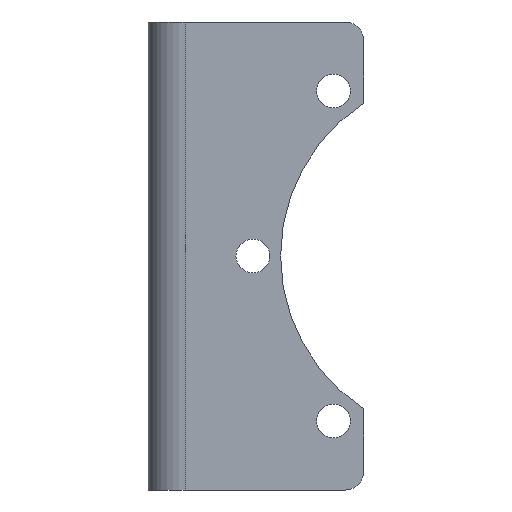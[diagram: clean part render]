
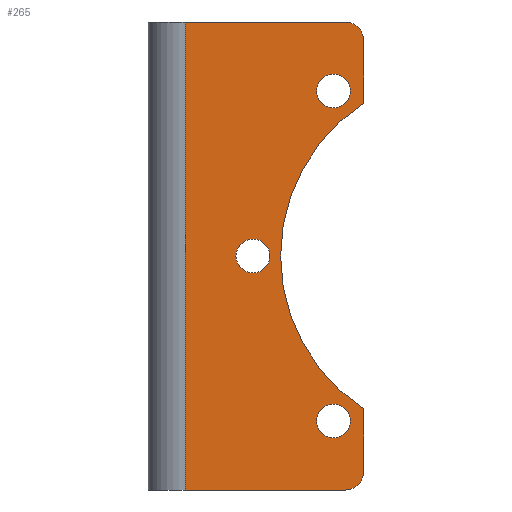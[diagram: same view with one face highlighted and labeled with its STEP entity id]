
A CAD part, front view. The second image highlights one B-rep face of the part: STEP entity #265.
In plain terms, the highlighted planar face has unit normal (0, -1, 0).
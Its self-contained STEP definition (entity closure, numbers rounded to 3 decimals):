
#84=CARTESIAN_POINT('',(35.0,0.,-35.0));
#85=VERTEX_POINT('',#84);
#92=CARTESIAN_POINT('',(32.0,0.,-38.0));
#93=VERTEX_POINT('',#92);
#94=CARTESIAN_POINT('',(32.0,0.,-35.0));
#95=DIRECTION('',(0.0,1.0,0.0));
#96=DIRECTION('',(0.707,0.0,-0.707));
#97=AXIS2_PLACEMENT_3D('',#94,#95,#96);
#98=CIRCLE('',#97,3.0);
#99=EDGE_CURVE('',#85,#93,#98,.T.);
#116=CARTESIAN_POINT('',(6.,0.,-38.0));
#117=VERTEX_POINT('',#116);
#118=CARTESIAN_POINT('',(6.,0.,-38.0));
#119=DIRECTION('',(1.0,0.0,0.0));
#120=VECTOR('',#119,26.0);
#121=LINE('',#118,#120);
#122=EDGE_CURVE('',#117,#93,#121,.T.);
#175=CARTESIAN_POINT('',(35.0,0.,0.0));
#176=DIRECTION('',(0.0,-1.0,0.0));
#177=DIRECTION('',(0.0,0.0,-1.0));
#178=AXIS2_PLACEMENT_3D('',#175,#176,#177);
#179=PLANE('',#178);
#180=ORIENTED_EDGE('',*,*,#99,.F.);
#181=CARTESIAN_POINT('',(35.0,0.0,-24.784));
#182=VERTEX_POINT('',#181);
#183=CARTESIAN_POINT('',(35.0,0.,-35.0));
#184=DIRECTION('',(0.0,0.0,1.0));
#185=VECTOR('',#184,10.216);
#186=LINE('',#183,#185);
#187=EDGE_CURVE('',#85,#182,#186,.T.);
#188=ORIENTED_EDGE('',*,*,#187,.T.);
#189=CARTESIAN_POINT('',(35.0,0.0,24.784));
#190=VERTEX_POINT('',#189);
#191=CARTESIAN_POINT('',(51.,0.,0.0));
#192=DIRECTION('',(0.0,1.0,0.0));
#193=DIRECTION('',(1.0,0.0,0.0));
#194=AXIS2_PLACEMENT_3D('',#191,#192,#193);
#195=CIRCLE('',#194,29.5);
#196=EDGE_CURVE('',#182,#190,#195,.T.);
#197=ORIENTED_EDGE('',*,*,#196,.T.);
#198=CARTESIAN_POINT('',(35.0,0.,35.0));
#199=VERTEX_POINT('',#198);
#200=CARTESIAN_POINT('',(35.0,0.,24.784));
#201=DIRECTION('',(0.0,0.0,1.0));
#202=VECTOR('',#201,10.216);
#203=LINE('',#200,#202);
#204=EDGE_CURVE('',#190,#199,#203,.T.);
#205=ORIENTED_EDGE('',*,*,#204,.T.);
#206=CARTESIAN_POINT('',(32.0,0.,38.0));
#207=VERTEX_POINT('',#206);
#208=CARTESIAN_POINT('',(32.0,0.,35.0));
#209=DIRECTION('',(0.0,1.0,0.0));
#210=DIRECTION('',(0.707,0.0,0.707));
#211=AXIS2_PLACEMENT_3D('',#208,#209,#210);
#212=CIRCLE('',#211,3.0);
#213=EDGE_CURVE('',#207,#199,#212,.T.);
#214=ORIENTED_EDGE('',*,*,#213,.F.);
#215=CARTESIAN_POINT('',(6.,0.,38.0));
#216=VERTEX_POINT('',#215);
#217=CARTESIAN_POINT('',(32.0,0.,38.0));
#218=DIRECTION('',(-1.0,0.0,0.0));
#219=VECTOR('',#218,26.0);
#220=LINE('',#217,#219);
#221=EDGE_CURVE('',#207,#216,#220,.T.);
#222=ORIENTED_EDGE('',*,*,#221,.T.);
#223=CARTESIAN_POINT('',(6.,0.,-38.0));
#224=DIRECTION('',(0.0,0.0,1.0));
#225=VECTOR('',#224,76.0);
#226=LINE('',#223,#225);
#227=EDGE_CURVE('',#117,#216,#226,.T.);
#228=ORIENTED_EDGE('',*,*,#227,.F.);
#229=ORIENTED_EDGE('',*,*,#122,.T.);
#230=EDGE_LOOP('',(#180,#188,#197,#205,#214,#222,#228,#229));
#231=FACE_OUTER_BOUND('',#230,.T.);
#232=CARTESIAN_POINT('',(27.318,0.0,-26.792));
#233=VERTEX_POINT('',#232);
#234=CARTESIAN_POINT('',(30.068,0.,-26.792));
#235=DIRECTION('',(0.0,1.0,0.0));
#236=DIRECTION('',(1.0,0.0,0.0));
#237=AXIS2_PLACEMENT_3D('',#234,#235,#236);
#238=CIRCLE('',#237,2.75);
#239=EDGE_CURVE('',#233,#233,#238,.T.);
#240=ORIENTED_EDGE('',*,*,#239,.T.);
#241=EDGE_LOOP('',(#240));
#242=FACE_BOUND('',#241,.T.);
#243=CARTESIAN_POINT('',(27.318,0.0,26.792));
#244=VERTEX_POINT('',#243);
#245=CARTESIAN_POINT('',(30.068,0.,26.792));
#246=DIRECTION('',(0.0,1.0,0.0));
#247=DIRECTION('',(1.0,0.0,0.0));
#248=AXIS2_PLACEMENT_3D('',#245,#246,#247);
#249=CIRCLE('',#248,2.75);
#250=EDGE_CURVE('',#244,#244,#249,.T.);
#251=ORIENTED_EDGE('',*,*,#250,.T.);
#252=EDGE_LOOP('',(#251));
#253=FACE_BOUND('',#252,.T.);
#254=CARTESIAN_POINT('',(14.25,0.0,0.));
#255=VERTEX_POINT('',#254);
#256=CARTESIAN_POINT('',(17.0,0.,0.0));
#257=DIRECTION('',(0.0,1.0,0.0));
#258=DIRECTION('',(1.0,0.0,0.0));
#259=AXIS2_PLACEMENT_3D('',#256,#257,#258);
#260=CIRCLE('',#259,2.75);
#261=EDGE_CURVE('',#255,#255,#260,.T.);
#262=ORIENTED_EDGE('',*,*,#261,.T.);
#263=EDGE_LOOP('',(#262));
#264=FACE_BOUND('',#263,.T.);
#265=ADVANCED_FACE('',(#231,#242,#253,#264),#179,.T.);
